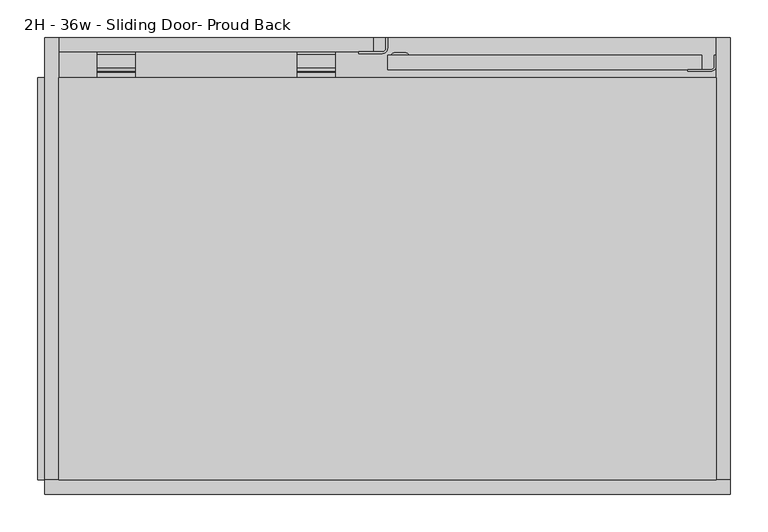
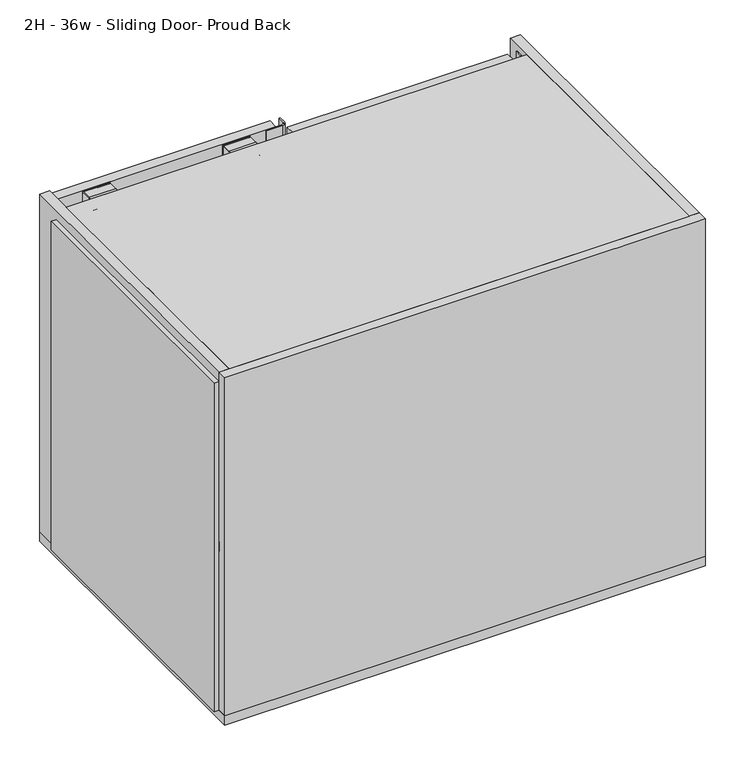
"""IFC4 building model written with IfcOpenShell, lengths in millimetres: furniture geometry, Haworth_BeHold_Modular_AttachedCredenza_StorageEnd : 2H - 36w - Sliding Door- Proud Back."""

from ifc_helpers import new_model, si_unit, point, frame, frame_2d, origin, origin_with_axes, place, context, project, spatial, polyline, circle_curve, ellipse_curve, trimmed, segment, composite_curve, outline, extrude, source, transform, mapped, element, save
from ifc_brep_helpers import plane_surface, revolved_surface, advanced_brep


def furniture_2h_36w_sliding_door_proud_back_04c56f9b(model_context):
    return source(origin(), model_context, "Body", "SolidModel", [
        extrude(outline(composite_curve([segment(polyline([(574.0474414, 702.9526594), (555.8029736, 702.9526594)]), True, "CONTINUOUS"), segment(trimmed(circle_curve(frame_2d((555.8029736, 701.0476594)), 1.905), [point((555.8029736, 702.9526594))], [point((553.8979736, 701.0476594))], True, "CARTESIAN"), True, "CONTINUOUS"), segment(polyline([(553.8979736, 701.0476594), (553.8979736, 690.8876111)]), True, "CONTINUOUS"), segment(trimmed(circle_curve(frame_2d((550.0879736, 690.8876111)), 3.81), [point((553.8979736, 690.8876111))], [point((550.0879358, 687.0776111))], False, "CARTESIAN"), True, "CONTINUOUS"), segment(polyline([(550.0879358, 687.0776111), (542.8110658, 687.0776834)]), True, "CONTINUOUS"), segment(trimmed(circle_curve(frame_2d((542.8111038, 690.9003686)), 3.8226852), [point((542.8110658, 687.0776834))], [point((538.9884186, 690.9003686))], False, "CARTESIAN"), True, "CONTINUOUS"), segment(polyline([(538.9884186, 690.9003686), (538.9884186, 698.5000242), (540.8859772, 698.5000242), (540.8859772, 690.8607522)]), True, "CONTINUOUS"), segment(trimmed(circle_curve(frame_2d((542.7717051, 690.8607522)), 1.885728), [point((540.8859772, 690.8607522))], [point((542.7717051, 688.9750242))], True, "CARTESIAN"), True, "CONTINUOUS"), segment(polyline([(542.7717051, 688.9750242), (550.0930896, 688.9750242)]), True, "CONTINUOUS"), segment(trimmed(circle_curve(frame_2d((550.0930896, 690.8800242)), 1.905), [point((550.0930896, 688.9750242))], [point((551.9980896, 690.8800242))], True, "CARTESIAN"), True, "CONTINUOUS"), segment(polyline([(551.9980896, 690.8800242), (551.9980896, 701.04)]), True, "CONTINUOUS"), segment(trimmed(circle_curve(frame_2d((555.8080896, 701.04)), 3.81), [point((551.9980896, 701.04))], [point((555.8080896, 704.85))], False, "CARTESIAN"), True, "CONTINUOUS"), segment(polyline([(555.8080896, 704.85), (574.04, 704.85)]), True, "CONTINUOUS"), segment(trimmed(circle_curve(frame_2d((574.04, 701.04)), 3.81), [point((574.04, 704.85))], [point((577.85, 701.04))], False, "CARTESIAN"), True, "CONTINUOUS"), segment(polyline([(577.85, 701.04), (577.85, 679.4500242), (575.9524414, 679.4499516), (575.9524414, 701.0476594)]), True, "CONTINUOUS"), segment(trimmed(circle_curve(frame_2d((574.0474414, 701.0476594)), 1.905), [point((575.9524414, 701.0476594))], [point((574.0474414, 702.9526594))], True, "CARTESIAN"), True, "CONTINUOUS")], self_intersect=False)), frame((-544.2070469, 0.0, 0.0), z_axis=(1.0, 0.0, 0.0), x_axis=(0.0, 1.0, 0.0)), (0.0, 0.0, 1.0), 50.8),
        extrude(outline(composite_curve([segment(polyline([(574.0474414, 702.9526594), (555.8029736, 702.9526594)]), True, "CONTINUOUS"), segment(trimmed(circle_curve(frame_2d((555.8029736, 701.0476594)), 1.905), [point((555.8029736, 702.9526594))], [point((553.8979736, 701.0476594))], True, "CARTESIAN"), True, "CONTINUOUS"), segment(polyline([(553.8979736, 701.0476594), (553.8979736, 690.8876111)]), True, "CONTINUOUS"), segment(trimmed(circle_curve(frame_2d((550.0879736, 690.8876111)), 3.81), [point((553.8979736, 690.8876111))], [point((550.0879358, 687.0776111))], False, "CARTESIAN"), True, "CONTINUOUS"), segment(polyline([(550.0879358, 687.0776111), (542.8110658, 687.0776834)]), True, "CONTINUOUS"), segment(trimmed(circle_curve(frame_2d((542.8111038, 690.9003686)), 3.8226852), [point((542.8110658, 687.0776834))], [point((538.9884186, 690.9003686))], False, "CARTESIAN"), True, "CONTINUOUS"), segment(polyline([(538.9884186, 690.9003686), (538.9884186, 698.5000242), (540.8859772, 698.5000242), (540.8859772, 690.8607522)]), True, "CONTINUOUS"), segment(trimmed(circle_curve(frame_2d((542.7717051, 690.8607522)), 1.885728), [point((540.8859772, 690.8607522))], [point((542.7717051, 688.9750242))], True, "CARTESIAN"), True, "CONTINUOUS"), segment(polyline([(542.7717051, 688.9750242), (550.0930896, 688.9750242)]), True, "CONTINUOUS"), segment(trimmed(circle_curve(frame_2d((550.0930896, 690.8800242)), 1.905), [point((550.0930896, 688.9750242))], [point((551.9980896, 690.8800242))], True, "CARTESIAN"), True, "CONTINUOUS"), segment(polyline([(551.9980896, 690.8800242), (551.9980896, 701.04)]), True, "CONTINUOUS"), segment(trimmed(circle_curve(frame_2d((555.8080896, 701.04)), 3.81), [point((551.9980896, 701.04))], [point((555.8080896, 704.85))], False, "CARTESIAN"), True, "CONTINUOUS"), segment(polyline([(555.8080896, 704.85), (574.04, 704.85)]), True, "CONTINUOUS"), segment(trimmed(circle_curve(frame_2d((574.04, 701.04)), 3.81), [point((574.04, 704.85))], [point((577.85, 701.04))], False, "CARTESIAN"), True, "CONTINUOUS"), segment(polyline([(577.85, 701.04), (577.85, 679.4500242), (575.9524414, 679.4499516), (575.9524414, 701.0476594)]), True, "CONTINUOUS"), segment(trimmed(circle_curve(frame_2d((574.0474414, 701.0476594)), 1.905), [point((575.9524414, 701.0476594))], [point((574.0474414, 702.9526594))], True, "CARTESIAN"), True, "CONTINUOUS")], self_intersect=False)), frame((-277.5112637, 0.0, 0.0), z_axis=(1.0, 0.0, 0.0), x_axis=(0.0, 1.0, 0.0)), (0.0, 0.0, 1.0), 50.8),
        extrude(outline(composite_curve([segment(polyline([(-194.9620389, 577.85), (-164.1009459, 577.85)]), True, "CONTINUOUS"), segment(trimmed(circle_curve(frame_2d((-164.1009459, 582.803)), 4.953), [point((-164.1009459, 577.85))], [point((-159.1479459, 582.803))], True, "CARTESIAN"), True, "CONTINUOUS"), segment(polyline([(-159.1479459, 582.803), (-159.1479459, 596.9104645), (-156.8620389, 596.9104645), (-156.8620389, 582.5688411)]), True, "CONTINUOUS"), segment(trimmed(circle_curve(frame_2d((-163.8563225, 582.5688411)), 6.9942836), [point((-156.8620389, 582.5688411))], [point((-163.8563225, 575.5745575))], False, "CARTESIAN"), True, "CONTINUOUS"), segment(polyline([(-163.8563225, 575.5745575), (-194.9620389, 575.5745575), (-194.9620389, 577.85)]), True, "CONTINUOUS")], self_intersect=False)), frame((0.0, 0.0, 34.925), z_axis=(0.0, 0.0, 1.0), x_axis=(1.0, 0.0, 0.0)), (0.0, 0.0, 1.0), 669.925),
        extrude(outline(polyline([(-175.9091553, 596.9), (-175.9091553, 577.85), (-595.0091553, 577.85), (-595.0091553, 596.9), (-175.9091553, 596.9)])), frame((0.0, 0.0, 34.925), z_axis=(0.0, 0.0, 1.0), x_axis=(1.0, 0.0, 0.0)), (0.0, 0.0, 1.0), 669.925),
        extrude(outline(composite_curve([segment(polyline([(243.1879611, 554.0375), (274.0490541, 554.0375)]), True, "CONTINUOUS"), segment(trimmed(circle_curve(frame_2d((274.0490541, 558.9905)), 4.953), [point((274.0490541, 554.0375))], [point((279.0020541, 558.9905))], True, "CARTESIAN"), True, "CONTINUOUS"), segment(polyline([(279.0020541, 558.9905), (279.0020541, 573.0979645), (281.2879611, 573.0979645), (281.2879611, 558.7563411)]), True, "CONTINUOUS"), segment(trimmed(circle_curve(frame_2d((274.2936775, 558.7563411)), 6.9942836), [point((281.2879611, 558.7563411))], [point((274.2936775, 551.7620575))], False, "CARTESIAN"), True, "CONTINUOUS"), segment(polyline([(274.2936775, 551.7620575), (243.1879611, 551.7620575), (243.1879611, 554.0375)]), True, "CONTINUOUS")], self_intersect=False)), frame((0.0, 0.0, 34.925), z_axis=(0.0, 0.0, 1.0), x_axis=(1.0, 0.0, 0.0)), (0.0, 0.0, 1.0), 665.1625),
        advanced_brep(
        [(-148.2859311, 576.2628876, 664.9085), (-140.3491553, 576.2628876, 664.9085), (-132.4123796, 576.2628876, 664.9085), (-151.4624305, 573.0875, 664.9085), (-129.2358802, 573.0875, 664.9085), (-140.3491553, 573.0875, 664.9085)],
        [
            (0, 1),
            (1, 2),
            (2, 0, circle_curve(frame((-140.3491553, 576.2628876, 664.9085), z_axis=(0.0, 1.0, 0.0), x_axis=(1.0, 0.0, 0.0)), 7.9367757)),
            (0, 2, circle_curve(frame((-140.3491553, 576.2628876, 664.9085), z_axis=(0.0, 1.0, 0.0), x_axis=(1.0, 0.0, 0.0)), 7.9367757)),
            (3, 0, circle_curve(frame((-148.2859311, 573.086388, 664.9085), z_axis=(0.0, 0.0, -1.0), x_axis=(0.0, 1.0, 0.0)), 3.1764996)),
            (2, 4, circle_curve(frame((-132.4123796, 573.086388, 664.9085), z_axis=(0.0, 0.0, -1.0), x_axis=(0.0, 1.0, 0.0)), 3.1764996)),
            (4, 3, circle_curve(frame((-140.3491553, 573.0875, 664.9085), z_axis=(0.0, 1.0, 0.0), x_axis=(1.0, 0.0, 0.0)), 11.1132751)),
            (3, 4, circle_curve(frame((-140.3491553, 573.0875, 664.9085), z_axis=(0.0, 1.0, 0.0), x_axis=(1.0, 0.0, 0.0)), 11.1132751)),
            (5, 3),
            (4, 5),
        ],
        [
            plane_surface(frame((-140.3491553, 576.2628876, 664.9085), z_axis=(0.0, 1.0, 0.0), x_axis=(1.0, 0.0, 0.0))),
            revolved_surface(trimmed(ellipse_curve(frame((-132.4123796, 573.086388, 664.9085), z_axis=(0.0, 0.0, -1.0), x_axis=(0.0, 1.0, 0.0)), 3.1764996, 3.1764996), [point((-132.4123796, 576.2628876, 664.9085))], [point((-129.2358802, 573.0875, 664.9085))], True, "CARTESIAN"), (-140.3491553, 534.9875, 664.9085), (0.0, -1.0, 0.0)),
            plane_surface(frame((-140.3491553, 573.0875, 664.9085), z_axis=(0.0, -1.0, 0.0), x_axis=(1.0, 0.0, 0.0))),
        ],
        [
            (0, [[1, 2, 3]]),
            (0, [[-2, -1, 4]]),
            (1, [[5, -3, 6, 7]]),
            (1, [[-6, -4, -5, 8]]),
            (2, [[9, -7, 10]]),
            (2, [[-10, -8, -9]]),
        ],
    ),
        extrude(outline(polyline([(262.2408447, 573.0875), (262.2408447, 554.0375), (-156.8591553, 554.0375), (-156.8591553, 573.0875), (262.2408447, 573.0875)])), frame((0.0, 0.0, 34.925), z_axis=(0.0, 0.0, 1.0), x_axis=(1.0, 0.0, 0.0)), (0.0, 0.0, 1.0), 665.1625),
        extrude(outline(polyline([(-604.5341553, 6.35), (-623.5841553, 6.35), (-623.5841553, 542.925), (-604.5341553, 542.925), (-604.5341553, 6.35)])), frame((0.0, 0.0, 31.75), z_axis=(0.0, 0.0, 1.0), x_axis=(1.0, 0.0, 0.0)), (0.0, 0.0, 1.0), 660.4),
        extrude(outline(polyline([(281.2908447, 6.35), (-595.0091553, 6.35), (-595.0091553, 542.925), (281.2908447, 542.925), (281.2908447, 6.35)])), frame((0.0, 0.0, 350.8375), z_axis=(0.0, 0.0, 1.0), x_axis=(1.0, 0.0, 0.0)), (0.0, 0.0, 1.0), 19.05),
        extrude(outline(polyline([(-614.0591553, 6.35), (-614.0591553, 542.925), (-595.0091553, 542.925), (-595.0091553, 6.35), (-614.0591553, 6.35)])), frame((0.0, 0.0, 350.8375), z_axis=(0.0, 0.0, 1.0), x_axis=(1.0, 0.0, 0.0)), (0.0, 0.0, 1.0), 19.05),
        extrude(outline(polyline([(281.2908447, 6.35), (-595.0091553, 6.35), (-595.0091553, 542.925), (281.2908447, 542.925), (281.2908447, 6.35)])), frame((0.0, 0.0, 692.15), z_axis=(0.0, 0.0, 1.0), x_axis=(1.0, 0.0, 0.0)), (0.0, 0.0, 1.0), 19.05),
        extrude(outline(polyline([(300.3408447, 6.35), (300.3408447, -12.7), (-614.0591553, -12.7), (-614.0591553, 6.35), (300.3408447, 6.35)])), frame((0.0, 0.0, 31.75), z_axis=(0.0, 0.0, 1.0), x_axis=(1.0, 0.0, 0.0)), (0.0, 0.0, 1.0), 679.45),
        extrude(outline(polyline([(300.3408447, 6.35), (281.2908447, 6.35), (281.2908447, 596.9), (300.3408447, 596.9), (300.3408447, 6.35)])), frame((0.0, 0.0, 31.75), z_axis=(0.0, 0.0, 1.0), x_axis=(1.0, 0.0, 0.0)), (0.0, 0.0, 1.0), 679.45),
        extrude(outline(polyline([(-614.0591553, 596.9), (-595.0091553, 596.9), (-595.0091553, 6.35), (-614.0591553, 6.35), (-614.0591553, 596.9)])), frame((0.0, 0.0, 31.75), z_axis=(0.0, 0.0, 1.0), x_axis=(1.0, 0.0, 0.0)), (0.0, 0.0, 1.0), 679.45),
        extrude(outline(polyline([(300.3408447, -12.7), (-614.0591553, -12.7), (-614.0591553, 596.9), (300.3408447, 596.9), (300.3408447, -12.7)])), frame((0.0, 0.0, 12.7), z_axis=(0.0, 0.0, 1.0), x_axis=(1.0, 0.0, 0.0)), (0.0, 0.0, 1.0), 19.05),
        extrude(outline(composite_curve([segment(trimmed(circle_curve(frame_2d((274.9408447, 12.7)), 6.35), [point((281.2908447, 12.7))], [point((274.9408447, 6.35))], False, "CARTESIAN"), True, "CONTINUOUS"), segment(polyline([(274.9408447, 6.35), (230.4408477, 6.35)]), True, "CONTINUOUS"), segment(trimmed(circle_curve(frame_2d((230.4408477, 12.7)), 6.35), [point((230.4408477, 6.35))], [point((224.0908477, 12.7))], False, "CARTESIAN"), True, "CONTINUOUS"), segment(polyline([(224.0908477, 12.7), (224.0908477, 24.1500763), (263.4907684, 63.5499969), (274.9408447, 63.5499969)]), True, "CONTINUOUS"), segment(trimmed(circle_curve(frame_2d((274.9408447, 57.1999969)), 6.35), [point((274.9408447, 63.5499969))], [point((281.2908447, 57.1999969))], False, "CARTESIAN"), True, "CONTINUOUS"), segment(polyline([(281.2908447, 57.1999969), (281.2908447, 12.7)]), True, "CONTINUOUS")], self_intersect=False)), origin_with_axes(), (0.0, 0.0, 1.0), 12.7),
        extrude(outline(composite_curve([segment(polyline([(281.2908447, 571.5), (281.2908447, 527.0000031)]), True, "CONTINUOUS"), segment(trimmed(circle_curve(frame_2d((274.9408447, 527.0000031)), 6.35), [point((281.2908447, 527.0000031))], [point((274.9408447, 520.6500031))], False, "CARTESIAN"), True, "CONTINUOUS"), segment(polyline([(274.9408447, 520.6500031), (263.4907684, 520.6500031), (224.0908477, 560.0499237), (224.0908477, 571.5)]), True, "CONTINUOUS"), segment(trimmed(circle_curve(frame_2d((230.4408477, 571.5)), 6.35), [point((224.0908477, 571.5))], [point((230.4408477, 577.85))], False, "CARTESIAN"), True, "CONTINUOUS"), segment(polyline([(230.4408477, 577.85), (274.9408447, 577.85)]), True, "CONTINUOUS"), segment(trimmed(circle_curve(frame_2d((274.9408447, 571.5)), 6.35), [point((274.9408447, 577.85))], [point((281.2908447, 571.5))], False, "CARTESIAN"), True, "CONTINUOUS")], self_intersect=False)), origin_with_axes(), (0.0, 0.0, 1.0), 12.7),
        extrude(outline(composite_curve([segment(polyline([(-595.0091553, 12.7), (-595.0091553, 57.1999969)]), True, "CONTINUOUS"), segment(trimmed(circle_curve(frame_2d((-588.6591553, 57.1999969)), 6.35), [point((-595.0091553, 57.1999969))], [point((-588.6591553, 63.5499969))], False, "CARTESIAN"), True, "CONTINUOUS"), segment(polyline([(-588.6591553, 63.5499969), (-577.209079, 63.5499969), (-537.8091584, 24.1500763), (-537.8091584, 12.7)]), True, "CONTINUOUS"), segment(trimmed(circle_curve(frame_2d((-544.1591584, 12.7)), 6.35), [point((-537.8091584, 12.7))], [point((-544.1591584, 6.35))], False, "CARTESIAN"), True, "CONTINUOUS"), segment(polyline([(-544.1591584, 6.35), (-588.6591553, 6.35)]), True, "CONTINUOUS"), segment(trimmed(circle_curve(frame_2d((-588.6591553, 12.7)), 6.35), [point((-588.6591553, 6.35))], [point((-595.0091553, 12.7))], False, "CARTESIAN"), True, "CONTINUOUS")], self_intersect=False)), origin_with_axes(), (0.0, 0.0, 1.0), 12.7),
        extrude(outline(composite_curve([segment(trimmed(circle_curve(frame_2d((-588.6591553, 571.5)), 6.35), [point((-595.0091553, 571.5))], [point((-588.6591553, 577.85))], False, "CARTESIAN"), True, "CONTINUOUS"), segment(polyline([(-588.6591553, 577.85), (-544.1591584, 577.85)]), True, "CONTINUOUS"), segment(trimmed(circle_curve(frame_2d((-544.1591584, 571.5)), 6.35), [point((-544.1591584, 577.85))], [point((-537.8091584, 571.5))], False, "CARTESIAN"), True, "CONTINUOUS"), segment(polyline([(-537.8091584, 571.5), (-537.8091584, 560.0499237), (-577.209079, 520.6500031), (-588.6591553, 520.6500031)]), True, "CONTINUOUS"), segment(trimmed(circle_curve(frame_2d((-588.6591553, 527.0000031)), 6.35), [point((-588.6591553, 520.6500031))], [point((-595.0091553, 527.0000031))], False, "CARTESIAN"), True, "CONTINUOUS"), segment(polyline([(-595.0091553, 527.0000031), (-595.0091553, 571.5)]), True, "CONTINUOUS")], self_intersect=False)), origin_with_axes(), (0.0, 0.0, 1.0), 12.7),
    ])


if __name__ == "__main__":
    model = new_model("IFC4")
    model_context = context("Model", 3, world=origin())
    ifc_project = project(units=[si_unit("LENGTHUNIT", "METRE", prefix="MILLI")], contexts=[model_context])
    site = spatial("IfcSite", under=ifc_project)
    building = spatial("IfcBuilding", under=site)
    placement = place(None, origin())
    furniture_2h_36w_sliding_door_proud_back_shape = furniture_2h_36w_sliding_door_proud_back_04c56f9b(model_context)
    element("IfcFurniture", 1, ObjectType="Haworth_BeHold_Modular_AttachedCredenza_StorageEnd : 2H - 36w - Sliding Door- Proud Back", at=placement, inside=building, context=model_context, shape_type="MappedRepresentation", body=[
        mapped(furniture_2h_36w_sliding_door_proud_back_shape, transform((0.0, 0.0, 0.0), x_axis=(1.0, 0.0, 0.0), y_axis=(0.0, 1.0, 0.0), z_axis=(0.0, 0.0, 1.0))),
    ])
    save(model, "model.ifc")
